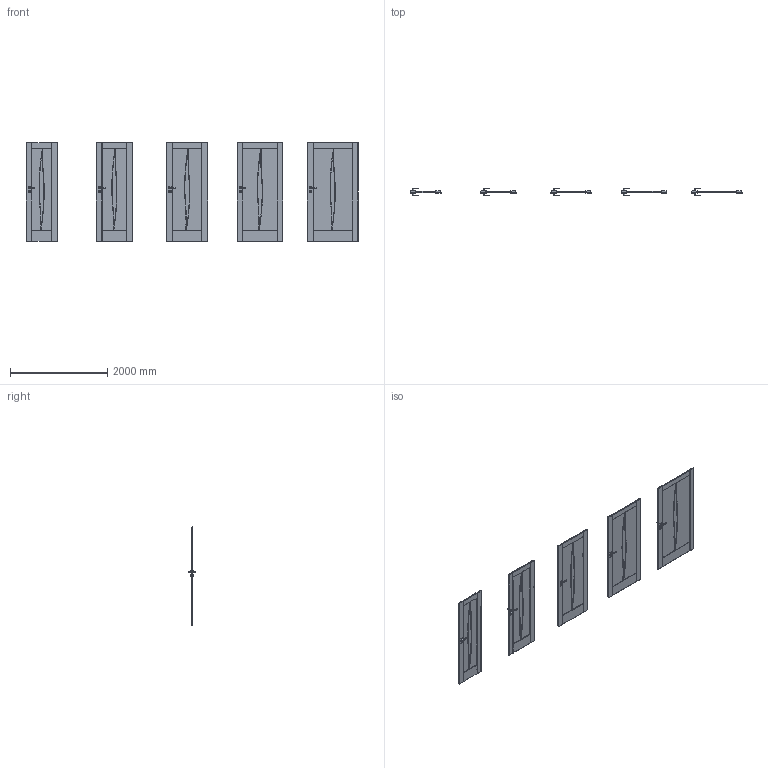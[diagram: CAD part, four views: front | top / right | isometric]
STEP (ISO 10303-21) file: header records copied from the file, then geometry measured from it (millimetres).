
FILE_DESCRIPTION(/* description */ (''),/* implementation_level */ '2;1');
FILE_NAME(/* name */ '049911_A_2-Skrzydło Verte Home model E.5_ polska norma _PN__ przylgowe..stp',/* time_stamp */ '2024-09-13T12:10:32+02:00',/* author */ (''),/* organization */ (''),/* preprocessor_version */ 'ST-DEVELOPER v16',/* originating_system */ 'SIEMENS PLM Software NX 11.0',/* authorisation */ '');
FILE_SCHEMA (('AUTOMOTIVE_DESIGN { 1 0 10303 214 3 1 1 1 }'));
Products named in the file (1): bkni53901D95qt3d
Bounding box: 6844 x 153.13 x 2030.02 mm (x, y, z)
Volume: 183134998.7 mm3; surface area: 21146188.6 mm2
Topology: 61 solids, 70 shells, 3575 faces, 9817 edges, 6207 vertices
Faces by surface type: plane 1670, cylinder 710, cone 480, torus 400, bspline 175, sphere 140
Entity records: 125045 total; most frequent: CARTESIAN_POINT 32892, DIRECTION 19457, ORIENTED_EDGE 19354, EDGE_CURVE 9677, AXIS2_PLACEMENT_3D 7401, VERTEX_POINT 6207, LINE 4655, VECTOR 4655
